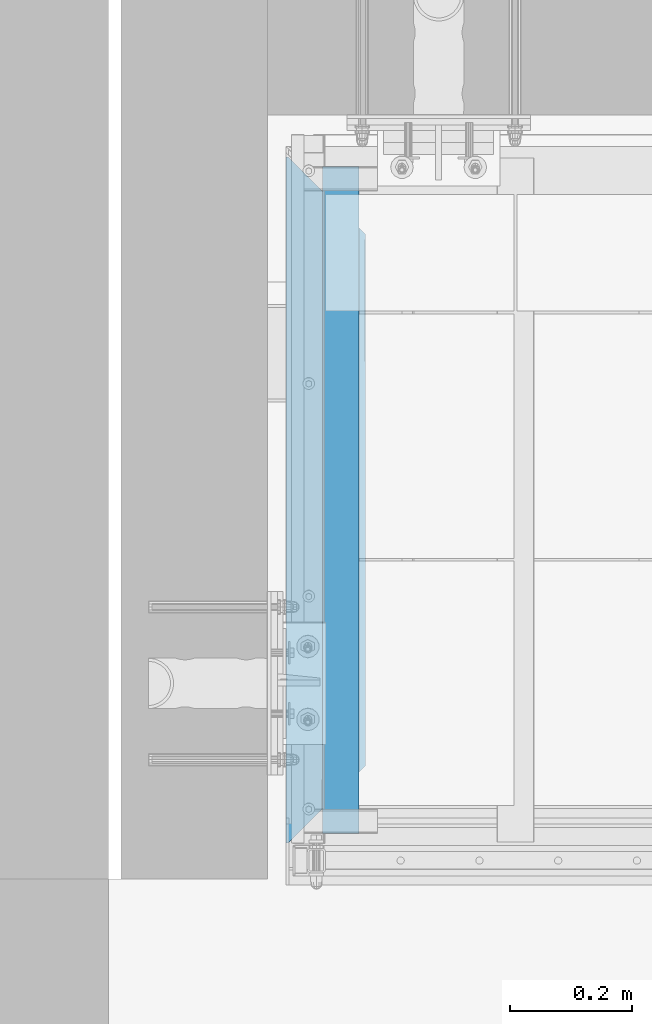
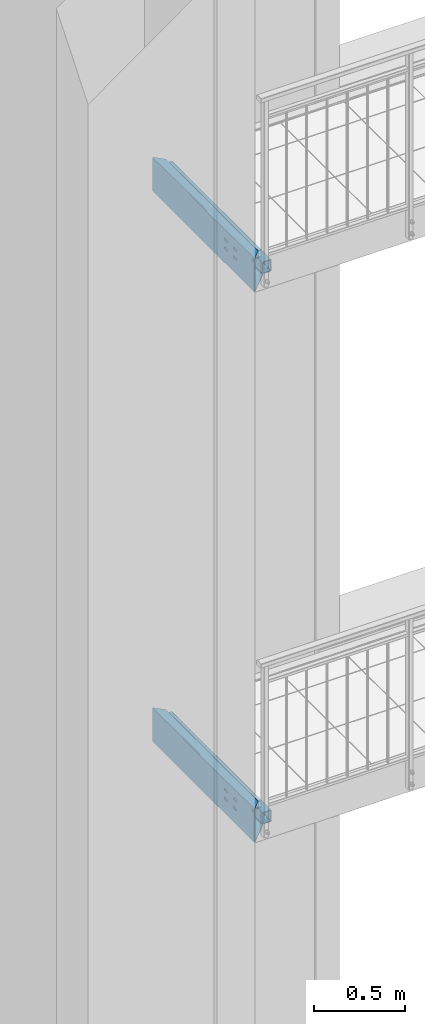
# One storey, part 36 of 162: 4 beams, 14 openings.
"""IFC2X3 building model written with IfcOpenShell, lengths in millimetres."""

from ifc_helpers import new_model, entity, si_unit, converted_unit, point, frame, frame_2d, origin, origin_with_axes, origin_2d, place, context, project, spatial, polyline, circle_curve, line_curve, trimmed, segment, composite_curve, hollow_rectangle, circle, outline, extrude, clip, halfspace, material, element, save


model = new_model("IFC2X3")

# Units and contexts
model_context = context("Model", 3, precision=1e-09, world=origin_with_axes())
ifc_project = project(units=[si_unit("LENGTHUNIT", "METRE", prefix="MILLI"), si_unit("AREAUNIT", "SQUARE_METRE"), si_unit("VOLUMEUNIT", "CUBIC_METRE"), converted_unit("PLANEANGLEUNIT", "DEGREE", entity("IfcPlaneAngleMeasure", 0.01745329), si_unit("PLANEANGLEUNIT", "RADIAN"), dimensions=[0, 0, 0, 0, 0, 0, 0])], contexts=[model_context])

# Site, building, storey
site_placement = place(None, origin_with_axes())
site = spatial("IfcSite", under=ifc_project, at=site_placement, Name="Hermannstra?e 1a, 60318 Frankfurt", CompositionType="ELEMENT")
building_placement = place(site_placement, origin_with_axes())
building = spatial("IfcBuilding", under=site, at=building_placement, Name="Struktur 1", CompositionType="ELEMENT")
storey_placement = place(building_placement, origin_with_axes())
storey = spatial("IfcBuildingStorey", under=building, at=storey_placement, Name="Default Storey", CompositionType="ELEMENT", Elevation=0.0)

# Beam
ifc_material_1 = material(Name="S235JR")
beam_1_placement = place(None, frame((2643.30936482, 1559.609373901, 7685.0), z_axis=(0.0, 1.0, 0.0), x_axis=(-1.0, 0.0, 0.0)))
element("IfcBeam", 1, at=beam_1_placement, inside=storey, material=ifc_material_1, Name="-", ObjectType="-", context=model_context, shape_type="SweptSolid", body=[
    extrude(hollow_rectangle(XDim=60.0, YDim=80.0, WallThickness=4.0, InnerFilletRadius=4.0, OuterFilletRadius=8.0, at=origin_2d()), origin(), (0.0, 0.0, 1.0), 1092.0),
])

# Beam, openings
ifc_material_2 = material(Name="S355JR")
beam_2_placement = place(None, frame((2618.30936482, 3047.91661163, 7665.0), z_axis=(0.0, -1.0, 0.0), x_axis=(1.0, 0.0, 0.0)))
beam_2 = element("IfcBeam", 2, at=beam_2_placement, inside=storey, material=ifc_material_2, Name="-", ObjectType="-", context=model_context, shape_type="Clipping", body=[
    clip(clip(extrude(outline(composite_curve([segment(trimmed(circle_curve(frame_2d((57.999999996, -107.999999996), x_axis=(1.0, 0.0)), 7.000000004), [point((58.0, -115.0))], [point((65.0, -108.0))], True, "CARTESIAN"), True, "CONTINUOUS"), segment(trimmed(line_curve((65.0, -108.0), (0.0, 1.0), 31.0), [point((65.0, -108.0))], [point((65.0, -77.0))], True, "CARTESIAN"), True, "CONTINUOUS"), segment(trimmed(circle_curve(frame_2d((57.999999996, -77.000000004), x_axis=(1.0, 0.0)), 7.000000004), [point((65.0, -77.0))], [point((58.0, -70.0))], True, "CARTESIAN"), True, "CONTINUOUS"), segment(trimmed(line_curve((58.0, -70.0), (-1.0, 0.0), 23.0), [point((58.0, -70.0))], [point((35.0, -70.0))], True, "CARTESIAN"), True, "CONTINUOUS"), segment(trimmed(line_curve((35.0, -70.0), (0.0, -1.0), 4.0), [point((35.0, -70.0))], [point((35.0, -74.0))], True, "CARTESIAN"), True, "CONTINUOUS"), segment(trimmed(line_curve((35.0, -74.0), (1.0, 0.0), 23.0), [point((35.0, -74.0))], [point((58.0, -74.0))], True, "CARTESIAN"), True, "CONTINUOUS"), segment(trimmed(circle_curve(frame_2d((57.999999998, -77.000000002), x_axis=(-1.0, 0.0)), 3.000000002), [point((58.0, -74.0))], [point((61.0, -77.0))], False, "CARTESIAN"), True, "CONTINUOUS"), segment(trimmed(line_curve((61.0, -77.0), (0.0, -1.0), 31.0), [point((61.0, -77.0))], [point((61.0, -108.0))], True, "CARTESIAN"), True, "CONTINUOUS"), segment(trimmed(circle_curve(frame_2d((57.999999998, -107.999999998), x_axis=(-1.0, 0.0)), 3.000000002), [point((61.0, -108.0))], [point((58.0, -111.0))], False, "CARTESIAN"), True, "CONTINUOUS"), segment(trimmed(line_curve((58.0, -111.0), (-1.0, 0.0), 116.0), [point((58.0, -111.0))], [point((-58.0, -111.0))], True, "CARTESIAN"), True, "CONTINUOUS"), segment(trimmed(circle_curve(frame_2d((-57.999999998, -107.999999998), x_axis=(-1.0, 0.0)), 3.000000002), [point((-58.0, -111.0))], [point((-61.0, -108.0))], False, "CARTESIAN"), True, "CONTINUOUS"), segment(trimmed(line_curve((-61.0, -108.0), (0.0, 1.0), 216.0), [point((-61.0, -108.0))], [point((-61.0, 108.0))], True, "CARTESIAN"), True, "CONTINUOUS"), segment(trimmed(circle_curve(frame_2d((-57.999999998, 107.999999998), x_axis=(-1.0, 0.0)), 3.000000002), [point((-61.0, 108.0))], [point((-58.0, 111.0))], False, "CARTESIAN"), True, "CONTINUOUS"), segment(trimmed(line_curve((-58.0, 111.0), (1.0, 0.0), 46.0), [point((-58.0, 111.0))], [point((-12.0, 111.0))], True, "CARTESIAN"), True, "CONTINUOUS"), segment(trimmed(circle_curve(frame_2d((-12.000000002, 107.999999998), x_axis=(-1.0, 0.0)), 3.000000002), [point((-12.0, 111.0))], [point((-9.0, 108.0))], False, "CARTESIAN"), True, "CONTINUOUS"), segment(trimmed(line_curve((-9.0, 108.0), (0.0, -1.0), 33.0), [point((-9.0, 108.0))], [point((-9.0, 75.0))], True, "CARTESIAN"), True, "CONTINUOUS"), segment(trimmed(line_curve((-9.0, 75.0), (1.0, 0.0), 4.0), [point((-9.0, 75.0))], [point((-5.0, 75.0))], True, "CARTESIAN"), True, "CONTINUOUS"), segment(trimmed(line_curve((-5.0, 75.0), (0.0, 1.0), 33.0), [point((-5.0, 75.0))], [point((-5.0, 108.0))], True, "CARTESIAN"), True, "CONTINUOUS"), segment(trimmed(circle_curve(frame_2d((-12.000000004, 107.999999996), x_axis=(1.0, 0.0)), 7.000000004), [point((-5.0, 108.0))], [point((-12.0, 115.0))], True, "CARTESIAN"), True, "CONTINUOUS"), segment(trimmed(line_curve((-12.0, 115.0), (-1.0, 0.0), 46.0), [point((-12.0, 115.0))], [point((-58.0, 115.0))], True, "CARTESIAN"), True, "CONTINUOUS"), segment(trimmed(circle_curve(frame_2d((-57.999999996, 107.999999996), x_axis=(1.0, 0.0)), 7.000000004), [point((-58.0, 115.0))], [point((-65.0, 108.0))], True, "CARTESIAN"), True, "CONTINUOUS"), segment(trimmed(line_curve((-65.0, 108.0), (0.0, -1.0), 216.0), [point((-65.0, 108.0))], [point((-65.0, -108.0))], True, "CARTESIAN"), True, "CONTINUOUS"), segment(trimmed(circle_curve(frame_2d((-57.999999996, -107.999999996), x_axis=(1.0, 0.0)), 7.000000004), [point((-65.0, -108.0))], [point((-58.0, -115.0))], True, "CARTESIAN"), True, "CONTINUOUS"), segment(trimmed(line_curve((-58.0, -115.0), (1.0, 0.0), 116.0), [point((-58.0, -115.0))], [point((58.0, -115.0))], True, "CARTESIAN"), True, "CONTINUOUS")], self_intersect=False)), origin(), (0.0, 0.0, 1.0), 1884.614475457), halfspace(frame((-6.350702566, -7665.0, 435.957949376), z_axis=(-0.707106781, 0.0, 0.707106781), x_axis=(0.707106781, 0.0, 0.707106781)), True)), halfspace(frame((-2111.960076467, -7665.0, 3554.265899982), z_axis=(-0.707106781, 0.0, -0.707106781), x_axis=(-0.707106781, 0.0, 0.707106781)), True)),
])
opening_1_placement = place(beam_2_placement, frame((-56.065030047, 215.1, 367.985828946), z_axis=(0.0, 1.0, 0.0), x_axis=(-1.0, 0.0, 0.0)))
element("IfcOpeningElement", 3, at=opening_1_placement, cuts=beam_2, ObjectType="Opening", context=model_context, shape_type="SweptSolid", body=[
    extrude(outline(polyline([(0.0, 0.0), (32.796627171, 0.0), (32.796627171, 13.322408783), (0.0, 13.322408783), (0.0, 0.0)])), origin(), (0.0, 0.0, -1.0), 430.2),
])
opening_2_placement = place(beam_2_placement, frame((-72.463343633, 215.1, 1509.96744212), z_axis=(0.0, -1.0, 0.0), x_axis=(-1.0, 0.0, 0.0)))
element("IfcOpeningElement", 4, at=opening_2_placement, cuts=beam_2, ObjectType="Opening", context=model_context, shape_type="SweptSolid", body=[
    extrude(outline(polyline([(-16.398313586, -6.661204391), (16.398313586, -6.661204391), (16.398313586, 6.661204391), (-16.398313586, 6.661204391), (-16.398313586, -6.661204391)])), origin(), (0.0, 0.0, 1.0), 430.2),
])
opening_3_placement = place(beam_2_placement, frame((-60.5, 115.0, 1502.307651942), z_axis=(-1.0, 0.0, 0.0), x_axis=(0.0, 0.0, 1.0)))
element("IfcOpeningElement", 5, at=opening_3_placement, cuts=beam_2, ObjectType="Opening", context=model_context, shape_type="SweptSolid", body=[
    extrude(circle(Radius=10.001, at=frame_2d((-15.0, -20.0), x_axis=(1.0, 0.0))), origin(), (0.0, 0.0, 1.0), 5.0),
])
opening_4_placement = place(beam_2_placement, frame((-65.5, 19.999999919, 1242.307944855), z_axis=(1.0, 0.0, 0.0), x_axis=(0.0, 0.0, -1.0)))
element("IfcOpeningElement", 6, at=opening_4_placement, cuts=beam_2, ObjectType="Opening", context=model_context, shape_type="SweptSolid", body=[
    extrude(outline(composite_curve([segment(trimmed(line_curve((41.5, 20.999), (1.0, 0.0), 17.0), [point((41.5, 20.999))], [point((58.5, 20.999))], True, "CARTESIAN"), True, "CONTINUOUS"), segment(trimmed(circle_curve(frame_2d((58.5, 30.0), x_axis=(1.0, 0.0)), 9.001), [point((58.5, 20.999))], [point((58.5, 39.001))], True, "CARTESIAN"), True, "CONTINUOUS"), segment(trimmed(line_curve((58.5, 39.001), (-1.0, 0.0), 17.0), [point((58.5, 39.001))], [point((41.5, 39.001))], True, "CARTESIAN"), True, "CONTINUOUS"), segment(trimmed(circle_curve(frame_2d((41.5, 30.0), x_axis=(1.0, 0.0)), 9.001), [point((41.5, 39.001))], [point((41.5, 20.999))], True, "CARTESIAN"), True, "CONTINUOUS")], self_intersect=False)), origin(), (0.0, 0.0, 1.0), 5.0),
])
opening_5_placement = place(beam_2_placement, frame((-65.5, 19.999999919, 1242.307944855), z_axis=(1.0, 0.0, 0.0), x_axis=(0.0, 0.0, -1.0)))
element("IfcOpeningElement", 7, at=opening_5_placement, cuts=beam_2, ObjectType="Opening", context=model_context, shape_type="SweptSolid", body=[
    extrude(outline(composite_curve([segment(trimmed(line_curve((-58.5, 20.999), (1.0, 0.0), 17.0), [point((-58.5, 20.999))], [point((-41.5, 20.999))], True, "CARTESIAN"), True, "CONTINUOUS"), segment(trimmed(circle_curve(frame_2d((-41.5, 30.0), x_axis=(1.0, 0.0)), 9.001), [point((-41.5, 20.999))], [point((-41.5, 39.001))], True, "CARTESIAN"), True, "CONTINUOUS"), segment(trimmed(line_curve((-41.5, 39.001), (-1.0, 0.0), 17.0), [point((-41.5, 39.001))], [point((-58.5, 39.001))], True, "CARTESIAN"), True, "CONTINUOUS"), segment(trimmed(circle_curve(frame_2d((-58.5, 30.0), x_axis=(1.0, 0.0)), 9.001), [point((-58.5, 39.001))], [point((-58.5, 20.999))], True, "CARTESIAN"), True, "CONTINUOUS")], self_intersect=False)), origin(), (0.0, 0.0, 1.0), 5.0),
])
opening_6_placement = place(beam_2_placement, frame((-65.5, 19.999999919, 1242.307944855), z_axis=(1.0, 0.0, 0.0), x_axis=(0.0, 0.0, -1.0)))
element("IfcOpeningElement", 8, at=opening_6_placement, cuts=beam_2, ObjectType="Opening", context=model_context, shape_type="SweptSolid", body=[
    extrude(outline(composite_curve([segment(trimmed(line_curve((41.5, -39.001), (1.0, 0.0), 17.0), [point((41.5, -39.001))], [point((58.5, -39.001))], True, "CARTESIAN"), True, "CONTINUOUS"), segment(trimmed(circle_curve(frame_2d((58.5, -30.0), x_axis=(1.0, 0.0)), 9.001), [point((58.5, -39.001))], [point((58.5, -20.999))], True, "CARTESIAN"), True, "CONTINUOUS"), segment(trimmed(line_curve((58.5, -20.999), (-1.0, 0.0), 17.0), [point((58.5, -20.999))], [point((41.5, -20.999))], True, "CARTESIAN"), True, "CONTINUOUS"), segment(trimmed(circle_curve(frame_2d((41.5, -30.0), x_axis=(1.0, 0.0)), 9.001), [point((41.5, -20.999))], [point((41.5, -39.001))], True, "CARTESIAN"), True, "CONTINUOUS")], self_intersect=False)), origin(), (0.0, 0.0, 1.0), 5.0),
])
opening_7_placement = place(beam_2_placement, frame((-65.5, 19.999999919, 1242.307944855), z_axis=(1.0, 0.0, 0.0), x_axis=(0.0, 0.0, -1.0)))
element("IfcOpeningElement", 9, at=opening_7_placement, cuts=beam_2, ObjectType="Opening", context=model_context, shape_type="SweptSolid", body=[
    extrude(outline(composite_curve([segment(trimmed(line_curve((-58.5, -39.001), (1.0, 0.0), 17.0), [point((-58.5, -39.001))], [point((-41.5, -39.001))], True, "CARTESIAN"), True, "CONTINUOUS"), segment(trimmed(circle_curve(frame_2d((-41.5, -30.0), x_axis=(1.0, 0.0)), 9.001), [point((-41.5, -39.001))], [point((-41.5, -20.999))], True, "CARTESIAN"), True, "CONTINUOUS"), segment(trimmed(line_curve((-41.5, -20.999), (-1.0, 0.0), 17.0), [point((-41.5, -20.999))], [point((-58.5, -20.999))], True, "CARTESIAN"), True, "CONTINUOUS"), segment(trimmed(circle_curve(frame_2d((-58.5, -30.0), x_axis=(1.0, 0.0)), 9.001), [point((-58.5, -20.999))], [point((-58.5, -39.001))], True, "CARTESIAN"), True, "CONTINUOUS")], self_intersect=False)), origin(), (0.0, 0.0, 1.0), 5.0),
])

beam_3_placement = place(None, frame((2618.30936482, 3047.91661163, 11364.999), z_axis=(0.0, -1.0, 0.0), x_axis=(1.0, 0.0, 0.0)))
beam_3 = element("IfcBeam", 10, at=beam_3_placement, inside=storey, material=ifc_material_2, Name="-", ObjectType="-", context=model_context, shape_type="Clipping", body=[
    clip(clip(extrude(outline(composite_curve([segment(trimmed(circle_curve(frame_2d((57.999999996, -107.999999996), x_axis=(1.0, 0.0)), 7.000000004), [point((58.0, -115.0))], [point((65.0, -108.0))], True, "CARTESIAN"), True, "CONTINUOUS"), segment(trimmed(line_curve((65.0, -108.0), (0.0, 1.0), 31.0), [point((65.0, -108.0))], [point((65.0, -77.0))], True, "CARTESIAN"), True, "CONTINUOUS"), segment(trimmed(circle_curve(frame_2d((57.999999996, -77.000000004), x_axis=(1.0, 0.0)), 7.000000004), [point((65.0, -77.0))], [point((58.0, -70.0))], True, "CARTESIAN"), True, "CONTINUOUS"), segment(trimmed(line_curve((58.0, -70.0), (-1.0, 0.0), 23.0), [point((58.0, -70.0))], [point((35.0, -70.0))], True, "CARTESIAN"), True, "CONTINUOUS"), segment(trimmed(line_curve((35.0, -70.0), (0.0, -1.0), 4.0), [point((35.0, -70.0))], [point((35.0, -74.0))], True, "CARTESIAN"), True, "CONTINUOUS"), segment(trimmed(line_curve((35.0, -74.0), (1.0, 0.0), 23.0), [point((35.0, -74.0))], [point((58.0, -74.0))], True, "CARTESIAN"), True, "CONTINUOUS"), segment(trimmed(circle_curve(frame_2d((57.999999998, -77.000000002), x_axis=(-1.0, 0.0)), 3.000000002), [point((58.0, -74.0))], [point((61.0, -77.0))], False, "CARTESIAN"), True, "CONTINUOUS"), segment(trimmed(line_curve((61.0, -77.0), (0.0, -1.0), 31.0), [point((61.0, -77.0))], [point((61.0, -108.0))], True, "CARTESIAN"), True, "CONTINUOUS"), segment(trimmed(circle_curve(frame_2d((57.999999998, -107.999999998), x_axis=(-1.0, 0.0)), 3.000000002), [point((61.0, -108.0))], [point((58.0, -111.0))], False, "CARTESIAN"), True, "CONTINUOUS"), segment(trimmed(line_curve((58.0, -111.0), (-1.0, 0.0), 116.0), [point((58.0, -111.0))], [point((-58.0, -111.0))], True, "CARTESIAN"), True, "CONTINUOUS"), segment(trimmed(circle_curve(frame_2d((-57.999999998, -107.999999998), x_axis=(-1.0, 0.0)), 3.000000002), [point((-58.0, -111.0))], [point((-61.0, -108.0))], False, "CARTESIAN"), True, "CONTINUOUS"), segment(trimmed(line_curve((-61.0, -108.0), (0.0, 1.0), 216.0), [point((-61.0, -108.0))], [point((-61.0, 108.0))], True, "CARTESIAN"), True, "CONTINUOUS"), segment(trimmed(circle_curve(frame_2d((-57.999999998, 107.999999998), x_axis=(-1.0, 0.0)), 3.000000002), [point((-61.0, 108.0))], [point((-58.0, 111.0))], False, "CARTESIAN"), True, "CONTINUOUS"), segment(trimmed(line_curve((-58.0, 111.0), (1.0, 0.0), 46.0), [point((-58.0, 111.0))], [point((-12.0, 111.0))], True, "CARTESIAN"), True, "CONTINUOUS"), segment(trimmed(circle_curve(frame_2d((-12.000000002, 107.999999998), x_axis=(-1.0, 0.0)), 3.000000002), [point((-12.0, 111.0))], [point((-9.0, 108.0))], False, "CARTESIAN"), True, "CONTINUOUS"), segment(trimmed(line_curve((-9.0, 108.0), (0.0, -1.0), 33.0), [point((-9.0, 108.0))], [point((-9.0, 75.0))], True, "CARTESIAN"), True, "CONTINUOUS"), segment(trimmed(line_curve((-9.0, 75.0), (1.0, 0.0), 4.0), [point((-9.0, 75.0))], [point((-5.0, 75.0))], True, "CARTESIAN"), True, "CONTINUOUS"), segment(trimmed(line_curve((-5.0, 75.0), (0.0, 1.0), 33.0), [point((-5.0, 75.0))], [point((-5.0, 108.0))], True, "CARTESIAN"), True, "CONTINUOUS"), segment(trimmed(circle_curve(frame_2d((-12.000000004, 107.999999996), x_axis=(1.0, 0.0)), 7.000000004), [point((-5.0, 108.0))], [point((-12.0, 115.0))], True, "CARTESIAN"), True, "CONTINUOUS"), segment(trimmed(line_curve((-12.0, 115.0), (-1.0, 0.0), 46.0), [point((-12.0, 115.0))], [point((-58.0, 115.0))], True, "CARTESIAN"), True, "CONTINUOUS"), segment(trimmed(circle_curve(frame_2d((-57.999999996, 107.999999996), x_axis=(1.0, 0.0)), 7.000000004), [point((-58.0, 115.0))], [point((-65.0, 108.0))], True, "CARTESIAN"), True, "CONTINUOUS"), segment(trimmed(line_curve((-65.0, 108.0), (0.0, -1.0), 216.0), [point((-65.0, 108.0))], [point((-65.0, -108.0))], True, "CARTESIAN"), True, "CONTINUOUS"), segment(trimmed(circle_curve(frame_2d((-57.999999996, -107.999999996), x_axis=(1.0, 0.0)), 7.000000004), [point((-65.0, -108.0))], [point((-58.0, -115.0))], True, "CARTESIAN"), True, "CONTINUOUS"), segment(trimmed(line_curve((-58.0, -115.0), (1.0, 0.0), 116.0), [point((-58.0, -115.0))], [point((58.0, -115.0))], True, "CARTESIAN"), True, "CONTINUOUS")], self_intersect=False)), origin(), (0.0, 0.0, 1.0), 1884.614475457), halfspace(frame((-6.350702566, -11364.999, 435.957949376), z_axis=(-0.707106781, 0.0, 0.707106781), x_axis=(0.707106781, 0.0, 0.707106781)), True)), halfspace(frame((-2111.960076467, -11364.999, 3554.265899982), z_axis=(-0.707106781, 0.0, -0.707106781), x_axis=(-0.707106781, 0.0, 0.707106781)), True)),
])
opening_8_placement = place(beam_3_placement, frame((-56.065030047, 215.1, 367.985828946), z_axis=(0.0, 1.0, 0.0), x_axis=(-1.0, 0.0, 0.0)))
element("IfcOpeningElement", 11, at=opening_8_placement, cuts=beam_3, ObjectType="Opening", context=model_context, shape_type="SweptSolid", body=[
    extrude(outline(polyline([(0.0, 0.0), (32.796627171, 0.0), (32.796627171, 13.322408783), (0.0, 13.322408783), (0.0, 0.0)])), origin(), (0.0, 0.0, -1.0), 430.2),
])
opening_9_placement = place(beam_3_placement, frame((-72.463343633, 215.1, 1509.96744212), z_axis=(0.0, -1.0, 0.0), x_axis=(-1.0, 0.0, 0.0)))
element("IfcOpeningElement", 12, at=opening_9_placement, cuts=beam_3, ObjectType="Opening", context=model_context, shape_type="SweptSolid", body=[
    extrude(outline(polyline([(-16.398313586, -6.661204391), (16.398313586, -6.661204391), (16.398313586, 6.661204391), (-16.398313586, 6.661204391), (-16.398313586, -6.661204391)])), origin(), (0.0, 0.0, 1.0), 430.2),
])
opening_10_placement = place(beam_3_placement, frame((-60.5, 115.0, 1502.307651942), z_axis=(-1.0, 0.0, 0.0), x_axis=(0.0, 0.0, 1.0)))
element("IfcOpeningElement", 13, at=opening_10_placement, cuts=beam_3, ObjectType="Opening", context=model_context, shape_type="SweptSolid", body=[
    extrude(circle(Radius=10.001, at=frame_2d((-15.0, -20.0), x_axis=(1.0, 0.0))), origin(), (0.0, 0.0, 1.0), 5.0),
])
opening_11_placement = place(beam_3_placement, frame((-65.5, 19.999999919, 1242.307237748), z_axis=(1.0, 0.0, 0.0), x_axis=(0.0, 0.0, -1.0)))
element("IfcOpeningElement", 14, at=opening_11_placement, cuts=beam_3, ObjectType="Opening", context=model_context, shape_type="SweptSolid", body=[
    extrude(outline(composite_curve([segment(trimmed(line_curve((41.5, 20.999), (1.0, 0.0), 17.0), [point((41.5, 20.999))], [point((58.5, 20.999))], True, "CARTESIAN"), True, "CONTINUOUS"), segment(trimmed(circle_curve(frame_2d((58.5, 30.0), x_axis=(1.0, 0.0)), 9.001), [point((58.5, 20.999))], [point((58.5, 39.001))], True, "CARTESIAN"), True, "CONTINUOUS"), segment(trimmed(line_curve((58.5, 39.001), (-1.0, 0.0), 17.0), [point((58.5, 39.001))], [point((41.5, 39.001))], True, "CARTESIAN"), True, "CONTINUOUS"), segment(trimmed(circle_curve(frame_2d((41.5, 30.0), x_axis=(1.0, 0.0)), 9.001), [point((41.5, 39.001))], [point((41.5, 20.999))], True, "CARTESIAN"), True, "CONTINUOUS")], self_intersect=False)), origin(), (0.0, 0.0, 1.0), 5.0),
])
opening_12_placement = place(beam_3_placement, frame((-65.5, 19.999999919, 1242.307237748), z_axis=(1.0, 0.0, 0.0), x_axis=(0.0, 0.0, -1.0)))
element("IfcOpeningElement", 15, at=opening_12_placement, cuts=beam_3, ObjectType="Opening", context=model_context, shape_type="SweptSolid", body=[
    extrude(outline(composite_curve([segment(trimmed(line_curve((-58.5, 20.999), (1.0, 0.0), 17.0), [point((-58.5, 20.999))], [point((-41.5, 20.999))], True, "CARTESIAN"), True, "CONTINUOUS"), segment(trimmed(circle_curve(frame_2d((-41.5, 30.0), x_axis=(1.0, 0.0)), 9.001), [point((-41.5, 20.999))], [point((-41.5, 39.001))], True, "CARTESIAN"), True, "CONTINUOUS"), segment(trimmed(line_curve((-41.5, 39.001), (-1.0, 0.0), 17.0), [point((-41.5, 39.001))], [point((-58.5, 39.001))], True, "CARTESIAN"), True, "CONTINUOUS"), segment(trimmed(circle_curve(frame_2d((-58.5, 30.0), x_axis=(1.0, 0.0)), 9.001), [point((-58.5, 39.001))], [point((-58.5, 20.999))], True, "CARTESIAN"), True, "CONTINUOUS")], self_intersect=False)), origin(), (0.0, 0.0, 1.0), 5.0),
])
opening_13_placement = place(beam_3_placement, frame((-65.5, 19.999999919, 1242.307237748), z_axis=(1.0, 0.0, 0.0), x_axis=(0.0, 0.0, -1.0)))
element("IfcOpeningElement", 16, at=opening_13_placement, cuts=beam_3, ObjectType="Opening", context=model_context, shape_type="SweptSolid", body=[
    extrude(outline(composite_curve([segment(trimmed(line_curve((41.5, -39.001), (1.0, 0.0), 17.0), [point((41.5, -39.001))], [point((58.5, -39.001))], True, "CARTESIAN"), True, "CONTINUOUS"), segment(trimmed(circle_curve(frame_2d((58.5, -30.0), x_axis=(1.0, 0.0)), 9.001), [point((58.5, -39.001))], [point((58.5, -20.999))], True, "CARTESIAN"), True, "CONTINUOUS"), segment(trimmed(line_curve((58.5, -20.999), (-1.0, 0.0), 17.0), [point((58.5, -20.999))], [point((41.5, -20.999))], True, "CARTESIAN"), True, "CONTINUOUS"), segment(trimmed(circle_curve(frame_2d((41.5, -30.0), x_axis=(1.0, 0.0)), 9.001), [point((41.5, -20.999))], [point((41.5, -39.001))], True, "CARTESIAN"), True, "CONTINUOUS")], self_intersect=False)), origin(), (0.0, 0.0, 1.0), 5.0),
])
opening_14_placement = place(beam_3_placement, frame((-65.5, 19.999999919, 1242.307237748), z_axis=(1.0, 0.0, 0.0), x_axis=(0.0, 0.0, -1.0)))
element("IfcOpeningElement", 17, at=opening_14_placement, cuts=beam_3, ObjectType="Opening", context=model_context, shape_type="SweptSolid", body=[
    extrude(outline(composite_curve([segment(trimmed(line_curve((-58.5, -39.001), (1.0, 0.0), 17.0), [point((-58.5, -39.001))], [point((-41.5, -39.001))], True, "CARTESIAN"), True, "CONTINUOUS"), segment(trimmed(circle_curve(frame_2d((-41.5, -30.0), x_axis=(1.0, 0.0)), 9.001), [point((-41.5, -39.001))], [point((-41.5, -20.999))], True, "CARTESIAN"), True, "CONTINUOUS"), segment(trimmed(line_curve((-41.5, -20.999), (-1.0, 0.0), 17.0), [point((-41.5, -20.999))], [point((-58.5, -20.999))], True, "CARTESIAN"), True, "CONTINUOUS"), segment(trimmed(circle_curve(frame_2d((-58.5, -30.0), x_axis=(1.0, 0.0)), 9.001), [point((-58.5, -20.999))], [point((-58.5, -39.001))], True, "CARTESIAN"), True, "CONTINUOUS")], self_intersect=False)), origin(), (0.0, 0.0, 1.0), 5.0),
])

# Beam
beam_4_placement = place(None, frame((2643.30936482, 1559.609373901, 11384.999), z_axis=(0.0, 1.0, 0.0), x_axis=(-1.0, 0.0, 0.0)))
element("IfcBeam", 18, at=beam_4_placement, inside=storey, material=ifc_material_1, Name="-", ObjectType="-", context=model_context, shape_type="SweptSolid", body=[
    extrude(hollow_rectangle(XDim=60.0, YDim=80.0, WallThickness=4.0, InnerFilletRadius=4.0, OuterFilletRadius=8.0, at=origin_2d()), origin(), (0.0, 0.0, 1.0), 1092.0),
])

save(model, "model.ifc")
